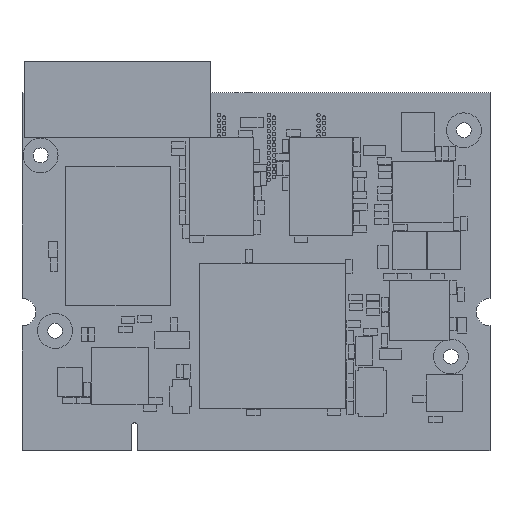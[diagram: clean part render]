
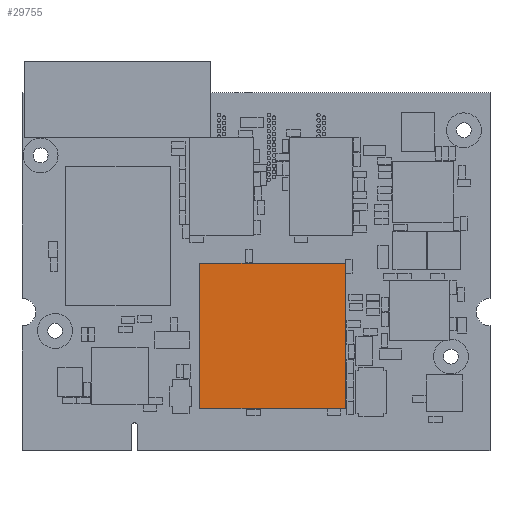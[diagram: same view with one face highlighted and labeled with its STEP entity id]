
A CAD part, top view. The second image highlights one B-rep face of the part: STEP entity #29755.
In plain terms, the highlighted planar face has unit normal (0, 0, 1).
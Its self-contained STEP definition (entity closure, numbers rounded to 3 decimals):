
#933 = FACE_OUTER_BOUND ( 'NONE', #1583, .T. ) ;
#1237 = PLANE ( 'NONE',  #62509 ) ;
#1238 = CARTESIAN_POINT ( 'NONE',  ( 54.31, 27.063, 3.675 ) ) ;
#1239 = DIRECTION ( 'NONE',  ( 0., 0., -1. ) ) ;
#1240 = DIRECTION ( 'NONE',  ( -1., 0., 0. ) ) ;
#1583 = EDGE_LOOP ( 'NONE', ( #9554, #9555, #9557, #9551 ) ) ;
#9551 = ORIENTED_EDGE ( 'NONE', *, *, #10100, .T. ) ;
#9554 = ORIENTED_EDGE ( 'NONE', *, *, #10085, .T. ) ;
#9555 = ORIENTED_EDGE ( 'NONE', *, *, #10089, .T. ) ;
#9557 = ORIENTED_EDGE ( 'NONE', *, *, #10095, .T. ) ;
#10085 = EDGE_CURVE ( 'NONE', #18674, #18683, #38110, .T. ) ;
#10089 = EDGE_CURVE ( 'NONE', #18683, #18680, #38114, .T. ) ;
#10095 = EDGE_CURVE ( 'NONE', #18680, #18667, #38120, .T. ) ;
#10100 = EDGE_CURVE ( 'NONE', #18667, #18674, #38125, .T. ) ;
#18667 = VERTEX_POINT ( 'NONE', #54058 ) ;
#18674 = VERTEX_POINT ( 'NONE', #54065 ) ;
#18680 = VERTEX_POINT ( 'NONE', #54071 ) ;
#18683 = VERTEX_POINT ( 'NONE', #54074 ) ;
#29755 = ADVANCED_FACE ( 'NONE', ( #933 ), #1237, .F. ) ;
#38110 = LINE ( 'NONE', #39489, #40244 ) ;
#38114 = LINE ( 'NONE', #39497, #40248 ) ;
#38120 = LINE ( 'NONE', #39509, #40254 ) ;
#38125 = LINE ( 'NONE', #39519, #40259 ) ;
#39489 = CARTESIAN_POINT ( 'NONE',  ( 33.31, 27.063, 3.675 ) ) ;
#39490 = DIRECTION ( 'NONE',  ( -1., 0., 0. ) ) ;
#39497 = CARTESIAN_POINT ( 'NONE',  ( 33.31, 6.063, 3.675 ) ) ;
#39498 = DIRECTION ( 'NONE',  ( 0., -1., 0. ) ) ;
#39509 = CARTESIAN_POINT ( 'NONE',  ( 54.31, 6.063, 3.675 ) ) ;
#39510 = DIRECTION ( 'NONE',  ( 1., 0., 0. ) ) ;
#39519 = CARTESIAN_POINT ( 'NONE',  ( 54.31, 27.063, 3.675 ) ) ;
#39520 = DIRECTION ( 'NONE',  ( 0., 1., 0. ) ) ;
#40244 = VECTOR ( 'NONE', #39490, 1000. ) ;
#40248 = VECTOR ( 'NONE', #39498, 1000. ) ;
#40254 = VECTOR ( 'NONE', #39510, 1000. ) ;
#40259 = VECTOR ( 'NONE', #39520, 1000. ) ;
#54058 = CARTESIAN_POINT ( 'NONE',  ( 54.31, 6.063, 3.675 ) ) ;
#54065 = CARTESIAN_POINT ( 'NONE',  ( 54.31, 27.063, 3.675 ) ) ;
#54071 = CARTESIAN_POINT ( 'NONE',  ( 33.31, 6.063, 3.675 ) ) ;
#54074 = CARTESIAN_POINT ( 'NONE',  ( 33.31, 27.063, 3.675 ) ) ;
#62509 = AXIS2_PLACEMENT_3D ( 'NONE', #1238, #1239, #1240 ) ;
